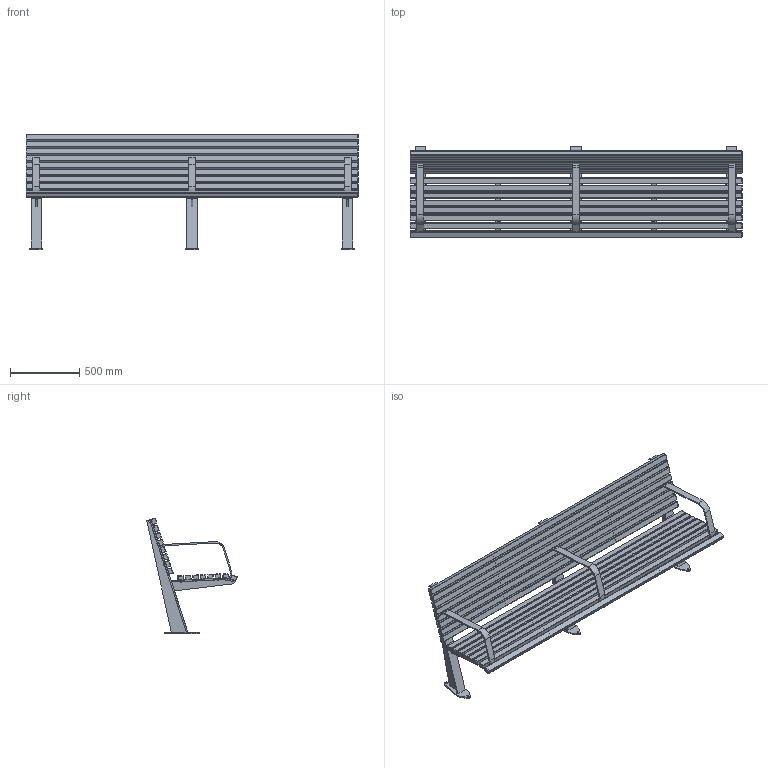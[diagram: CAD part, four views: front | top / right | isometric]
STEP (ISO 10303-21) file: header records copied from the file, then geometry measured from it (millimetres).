
FILE_DESCRIPTION(/* description */ (''),/* implementation_level */ '2;1');
FILE_NAME(/* name */ 'EDG01-A2_UAP_EDGE_Seat_3D',/* time_stamp */ '2018-01-23T16:15:56-05:00',/* author */ (''),/* organization */ (''),/* preprocessor_version */ 'ST-DEVELOPER v15',/* originating_system */ '',/* authorisation */ '');
FILE_SCHEMA (('AUTOMOTIVE_DESIGN'));
Products named in the file (1): Document
Bounding box: 2400.18 x 653.93 x 838.37 mm (x, y, z)
Volume: 58390802.4 mm3; surface area: 7311740 mm2
Topology: 121 solids, 121 shells, 3421 faces, 9041 edges, 5752 vertices
Faces by surface type: bspline 2360, plane 1061
Entity records: 111931 total; most frequent: CARTESIAN_POINT 62539, ORIENTED_EDGE 17542, EDGE_CURVE 8771, VERTEX_POINT 5752, EDGE_LOOP 3753, ADVANCED_FACE 3421, FACE_OUTER_BOUND 3421, B_SPLINE_CURVE_WITH_KNOTS 1843
